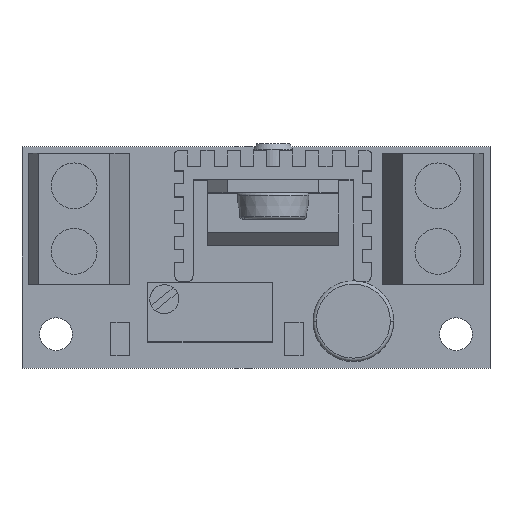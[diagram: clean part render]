
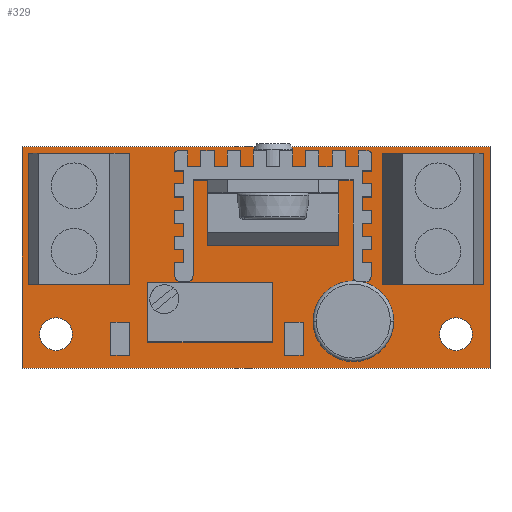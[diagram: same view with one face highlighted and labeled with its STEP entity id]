
A CAD part, top view. The second image highlights one B-rep face of the part: STEP entity #329.
In plain terms, the highlighted planar face has unit normal (0, 0, 1).
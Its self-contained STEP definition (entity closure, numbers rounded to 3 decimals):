
#63=CARTESIAN_POINT('Vertex',(-17.85,-8.45,1.2)) ;
#77=CARTESIAN_POINT('Vertex',(17.85,-8.45,1.2)) ;
#80=CARTESIAN_POINT('Line Origine',(0.,-8.45,1.2)) ;
#108=CARTESIAN_POINT('Vertex',(17.85,8.45,1.2)) ;
#111=CARTESIAN_POINT('Line Origine',(17.85,0.,1.2)) ;
#139=CARTESIAN_POINT('Vertex',(-17.85,8.45,1.2)) ;
#142=CARTESIAN_POINT('Line Origine',(0.,8.45,1.2)) ;
#164=CARTESIAN_POINT('Line Origine',(-17.85,0.,1.2)) ;
#181=CARTESIAN_POINT('Axis2P3D Location',(-15.25,-5.85,1.2)) ;
#185=CARTESIAN_POINT('Vertex',(-16.5,-5.85,1.2)) ;
#187=CARTESIAN_POINT('Vertex',(-14.,-5.85,1.2)) ;
#216=CARTESIAN_POINT('Axis2P3D Location',(-15.25,-5.85,1.2)) ;
#238=CARTESIAN_POINT('Axis2P3D Location',(15.25,-5.85,1.2)) ;
#242=CARTESIAN_POINT('Vertex',(14.,-5.85,1.2)) ;
#244=CARTESIAN_POINT('Vertex',(16.5,-5.85,1.2)) ;
#273=CARTESIAN_POINT('Axis2P3D Location',(15.25,-5.85,1.2)) ;
#310=CARTESIAN_POINT('Axis2P3D Location',(0.,0.,1.2)) ;
#81=DIRECTION('Vector Direction',(1.,0.,0.)) ;
#112=DIRECTION('Vector Direction',(0.,1.,0.)) ;
#143=DIRECTION('Vector Direction',(-1.,0.,0.)) ;
#165=DIRECTION('Vector Direction',(0.,-1.,0.)) ;
#182=DIRECTION('Axis2P3D Direction',(0.,0.,1.)) ;
#217=DIRECTION('Axis2P3D Direction',(0.,0.,1.)) ;
#239=DIRECTION('Axis2P3D Direction',(0.,0.,1.)) ;
#274=DIRECTION('Axis2P3D Direction',(0.,0.,1.)) ;
#311=DIRECTION('Axis2P3D Direction',(0.,0.,1.)) ;
#312=DIRECTION('Axis2P3D XDirection',(1.,0.,0.)) ;
#183=AXIS2_PLACEMENT_3D('Circle Axis2P3D',#181,#182,$) ;
#218=AXIS2_PLACEMENT_3D('Circle Axis2P3D',#216,#217,$) ;
#240=AXIS2_PLACEMENT_3D('Circle Axis2P3D',#238,#239,$) ;
#275=AXIS2_PLACEMENT_3D('Circle Axis2P3D',#273,#274,$) ;
#313=AXIS2_PLACEMENT_3D('Plane Axis2P3D',#310,#311,#312) ;
#316=ORIENTED_EDGE('',*,*,#84,.T.) ;
#317=ORIENTED_EDGE('',*,*,#115,.T.) ;
#318=ORIENTED_EDGE('',*,*,#146,.T.) ;
#319=ORIENTED_EDGE('',*,*,#168,.T.) ;
#322=ORIENTED_EDGE('',*,*,#189,.F.) ;
#323=ORIENTED_EDGE('',*,*,#220,.F.) ;
#326=ORIENTED_EDGE('',*,*,#246,.F.) ;
#327=ORIENTED_EDGE('',*,*,#277,.F.) ;
#324=FACE_BOUND('',#321,.T.) ;
#328=FACE_BOUND('',#325,.T.) ;
#82=VECTOR('Line Direction',#81,1.) ;
#113=VECTOR('Line Direction',#112,1.) ;
#144=VECTOR('Line Direction',#143,1.) ;
#166=VECTOR('Line Direction',#165,1.) ;
#329=ADVANCED_FACE('PartBody',(#320,#324,#328),#314,.T.) ;
#184=CIRCLE('generated circle',#183,1.25) ;
#219=CIRCLE('generated circle',#218,1.25) ;
#241=CIRCLE('generated circle',#240,1.25) ;
#276=CIRCLE('generated circle',#275,1.25) ;
#84=EDGE_CURVE('',#64,#78,#83,.T.) ;
#115=EDGE_CURVE('',#78,#109,#114,.T.) ;
#146=EDGE_CURVE('',#109,#140,#145,.T.) ;
#168=EDGE_CURVE('',#140,#64,#167,.T.) ;
#189=EDGE_CURVE('',#186,#188,#184,.T.) ;
#220=EDGE_CURVE('',#188,#186,#219,.T.) ;
#246=EDGE_CURVE('',#243,#245,#241,.T.) ;
#277=EDGE_CURVE('',#245,#243,#276,.T.) ;
#315=EDGE_LOOP('',(#316,#317,#318,#319)) ;
#321=EDGE_LOOP('',(#322,#323)) ;
#325=EDGE_LOOP('',(#326,#327)) ;
#320=FACE_OUTER_BOUND('',#315,.T.) ;
#83=LINE('Line',#80,#82) ;
#114=LINE('Line',#111,#113) ;
#145=LINE('Line',#142,#144) ;
#167=LINE('Line',#164,#166) ;
#314=PLANE('Plane',#313) ;
#64=VERTEX_POINT('',#63) ;
#78=VERTEX_POINT('',#77) ;
#109=VERTEX_POINT('',#108) ;
#140=VERTEX_POINT('',#139) ;
#186=VERTEX_POINT('',#185) ;
#188=VERTEX_POINT('',#187) ;
#243=VERTEX_POINT('',#242) ;
#245=VERTEX_POINT('',#244) ;
